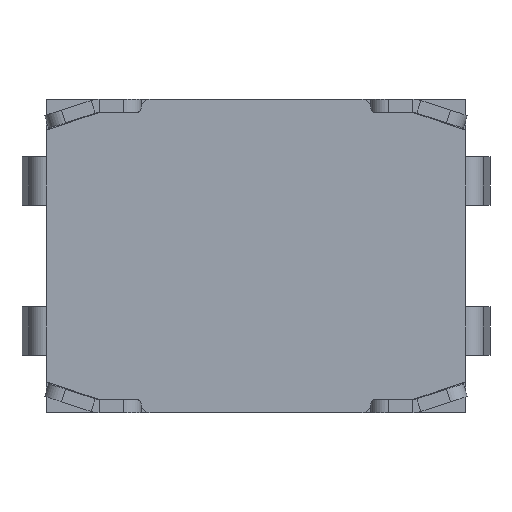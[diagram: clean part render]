
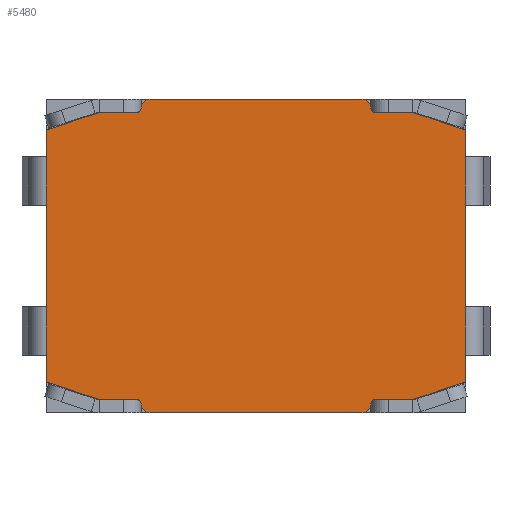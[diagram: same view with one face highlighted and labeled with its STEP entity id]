
A CAD part, front view. The second image highlights one B-rep face of the part: STEP entity #5480.
In plain terms, the highlighted planar face has unit normal (0, -1, 0).
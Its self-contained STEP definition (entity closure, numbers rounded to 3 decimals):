
#3567=CARTESIAN_POINT('',(1.2,-1.6,-1.675));
#3568=DIRECTION('',(0.,-1.,0.));
#3569=DIRECTION('',(0.,0.,-1.));
#3570=AXIS2_PLACEMENT_3D('',#3567,#3568,#3569);
#3575=CARTESIAN_POINT('',(-1.2,-1.6,-1.675));
#3576=DIRECTION('',(0.,-1.,0.));
#3577=DIRECTION('',(-1.,0.,0.));
#3578=AXIS2_PLACEMENT_3D('',#3575,#3576,#3577);
#3583=DIRECTION('',(-1.,0.,0.));
#3584=VECTOR('',#3583,0.425);
#3585=CARTESIAN_POINT('',(-1.35,-1.6,-1.625));
#3586=LINE('',#3585,#3584);
#3590=DIRECTION('',(0.949,0.,-0.316));
#3591=VECTOR('',#3590,0.632);
#3592=CARTESIAN_POINT('',(-2.375,-1.6,-1.425));
#3593=LINE('',#3592,#3591);
#3597=DIRECTION('',(0.,0.,1.));
#3598=VECTOR('',#3597,0.3);
#3599=CARTESIAN_POINT('',(-2.375,-1.6,-1.425));
#3600=LINE('',#3599,#3598);
#3604=DIRECTION('',(0.,0.,1.));
#3605=VECTOR('',#3604,0.55);
#3606=CARTESIAN_POINT('',(-2.375,-1.6,-1.125));
#3607=LINE('',#3606,#3605);
#3611=DIRECTION('',(0.,0.,1.));
#3612=VECTOR('',#3611,1.15);
#3613=CARTESIAN_POINT('',(-2.375,-1.6,-0.575));
#3614=LINE('',#3613,#3612);
#3618=DIRECTION('',(0.,0.,1.));
#3619=VECTOR('',#3618,0.55);
#3620=CARTESIAN_POINT('',(-2.375,-1.6,0.575));
#3621=LINE('',#3620,#3619);
#3625=DIRECTION('',(0.,0.,1.));
#3626=VECTOR('',#3625,0.3);
#3627=CARTESIAN_POINT('',(-2.375,-1.6,1.125));
#3628=LINE('',#3627,#3626);
#3632=DIRECTION('',(-0.949,0.,-0.316));
#3633=VECTOR('',#3632,0.632);
#3634=CARTESIAN_POINT('',(-1.775,-1.6,1.625));
#3635=LINE('',#3634,#3633);
#3639=DIRECTION('',(1.,0.,0.));
#3640=VECTOR('',#3639,0.425);
#3641=CARTESIAN_POINT('',(-1.775,-1.6,1.625));
#3642=LINE('',#3641,#3640);
#3646=CARTESIAN_POINT('',(-1.2,-1.6,1.675));
#3647=DIRECTION('',(0.,-1.,0.));
#3648=DIRECTION('',(0.,0.,1.));
#3649=AXIS2_PLACEMENT_3D('',#3646,#3647,#3648);
#3654=CARTESIAN_POINT('',(1.2,-1.6,1.675));
#3655=DIRECTION('',(0.,-1.,0.));
#3656=DIRECTION('',(1.,0.,0.));
#3657=AXIS2_PLACEMENT_3D('',#3654,#3655,#3656);
#3662=DIRECTION('',(1.,0.,0.));
#3663=VECTOR('',#3662,0.425);
#3664=CARTESIAN_POINT('',(1.35,-1.6,1.625));
#3665=LINE('',#3664,#3663);
#3669=DIRECTION('',(-0.949,0.,0.316));
#3670=VECTOR('',#3669,0.632);
#3671=CARTESIAN_POINT('',(2.375,-1.6,1.425));
#3672=LINE('',#3671,#3670);
#3676=DIRECTION('',(0.,0.,-1.));
#3677=VECTOR('',#3676,0.3);
#3678=CARTESIAN_POINT('',(2.375,-1.6,1.425));
#3679=LINE('',#3678,#3677);
#3683=DIRECTION('',(0.,0.,1.));
#3684=VECTOR('',#3683,0.55);
#3685=CARTESIAN_POINT('',(2.375,-1.6,0.575));
#3686=LINE('',#3685,#3684);
#3690=DIRECTION('',(0.,0.,-1.));
#3691=VECTOR('',#3690,1.15);
#3692=CARTESIAN_POINT('',(2.375,-1.6,0.575));
#3693=LINE('',#3692,#3691);
#3697=DIRECTION('',(0.,0.,1.));
#3698=VECTOR('',#3697,0.55);
#3699=CARTESIAN_POINT('',(2.375,-1.6,-1.125));
#3700=LINE('',#3699,#3698);
#3704=DIRECTION('',(0.,0.,-1.));
#3705=VECTOR('',#3704,0.3);
#3706=CARTESIAN_POINT('',(2.375,-1.6,-1.125));
#3707=LINE('',#3706,#3705);
#3711=DIRECTION('',(0.949,0.,0.316));
#3712=VECTOR('',#3711,0.632);
#3713=CARTESIAN_POINT('',(1.775,-1.6,-1.625));
#3714=LINE('',#3713,#3712);
#3718=DIRECTION('',(-1.,0.,0.));
#3719=VECTOR('',#3718,0.425);
#3720=CARTESIAN_POINT('',(1.775,-1.6,-1.625));
#3721=LINE('',#3720,#3719);
#3732=CARTESIAN_POINT('',(1.35,-1.6,-1.675));
#3733=DIRECTION('',(0.,1.,0.));
#3734=DIRECTION('',(-1.,0.,0.));
#3735=AXIS2_PLACEMENT_3D('',#3732,#3733,#3734);
#4442=CARTESIAN_POINT('',(-1.35,-1.6,1.675));
#4443=DIRECTION('',(0.,1.,0.));
#4444=DIRECTION('',(1.,0.,0.));
#4445=AXIS2_PLACEMENT_3D('',#4442,#4443,#4444);
#4496=CARTESIAN_POINT('',(1.35,-1.6,1.675));
#4497=DIRECTION('',(0.,1.,0.));
#4498=DIRECTION('',(0.,0.,-1.));
#4499=AXIS2_PLACEMENT_3D('',#4496,#4497,#4498);
#4511=DIRECTION('',(-1.,0.,0.));
#4512=VECTOR('',#4511,2.4);
#4513=CARTESIAN_POINT('',(1.2,-1.6,1.775));
#4514=LINE('',#4513,#4512);
#5074=CARTESIAN_POINT('',(-1.35,-1.6,-1.675));
#5075=DIRECTION('',(0.,1.,0.));
#5076=DIRECTION('',(0.,0.,1.));
#5077=AXIS2_PLACEMENT_3D('',#5074,#5075,#5076);
#5126=DIRECTION('',(-1.,0.,0.));
#5127=VECTOR('',#5126,2.4);
#5128=CARTESIAN_POINT('',(1.2,-1.6,-1.775));
#5129=LINE('',#5128,#5127);
#5233=CARTESIAN_POINT('',(-2.375,-1.6,0.575));
#5234=CARTESIAN_POINT('',(-2.375,-1.6,1.125));
#5235=VERTEX_POINT('',#5233);
#5236=VERTEX_POINT('',#5234);
#5249=CARTESIAN_POINT('',(2.375,-1.6,0.575));
#5250=CARTESIAN_POINT('',(2.375,-1.6,1.125));
#5251=VERTEX_POINT('',#5249);
#5252=VERTEX_POINT('',#5250);
#5281=CARTESIAN_POINT('',(-2.375,-1.6,-0.575));
#5282=VERTEX_POINT('',#5281);
#5285=CARTESIAN_POINT('',(-2.375,-1.6,-1.125));
#5286=VERTEX_POINT('',#5285);
#5297=CARTESIAN_POINT('',(2.375,-1.6,-0.575));
#5298=VERTEX_POINT('',#5297);
#5301=CARTESIAN_POINT('',(2.375,-1.6,-1.125));
#5302=VERTEX_POINT('',#5301);
#5305=CARTESIAN_POINT('',(-1.775,-1.6,1.625));
#5306=CARTESIAN_POINT('',(-2.375,-1.6,1.425));
#5307=VERTEX_POINT('',#5305);
#5308=VERTEX_POINT('',#5306);
#5313=CARTESIAN_POINT('',(2.375,-1.6,1.425));
#5314=CARTESIAN_POINT('',(1.775,-1.6,1.625));
#5315=VERTEX_POINT('',#5313);
#5316=VERTEX_POINT('',#5314);
#5321=CARTESIAN_POINT('',(-2.375,-1.6,-1.425));
#5322=CARTESIAN_POINT('',(-1.775,-1.6,-1.625));
#5323=VERTEX_POINT('',#5321);
#5324=VERTEX_POINT('',#5322);
#5329=CARTESIAN_POINT('',(1.775,-1.6,-1.625));
#5330=CARTESIAN_POINT('',(2.375,-1.6,-1.425));
#5331=VERTEX_POINT('',#5329);
#5332=VERTEX_POINT('',#5330);
#5338=CARTESIAN_POINT('',(-1.35,-1.6,1.625));
#5340=VERTEX_POINT('',#5338);
#5341=CARTESIAN_POINT('',(1.35,-1.6,1.625));
#5343=VERTEX_POINT('',#5341);
#5346=CARTESIAN_POINT('',(1.35,-1.6,-1.625));
#5348=VERTEX_POINT('',#5346);
#5349=CARTESIAN_POINT('',(-1.35,-1.6,-1.625));
#5351=VERTEX_POINT('',#5349);
#5353=CARTESIAN_POINT('',(1.2,-1.6,-1.775));
#5354=CARTESIAN_POINT('',(1.3,-1.6,-1.675));
#5355=VERTEX_POINT('',#5353);
#5356=VERTEX_POINT('',#5354);
#5365=CARTESIAN_POINT('',(-1.3,-1.6,-1.675));
#5366=VERTEX_POINT('',#5365);
#5367=CARTESIAN_POINT('',(-1.2,-1.6,-1.775));
#5368=VERTEX_POINT('',#5367);
#5373=CARTESIAN_POINT('',(1.3,-1.6,1.675));
#5374=VERTEX_POINT('',#5373);
#5375=CARTESIAN_POINT('',(1.2,-1.6,1.775));
#5376=VERTEX_POINT('',#5375);
#5377=CARTESIAN_POINT('',(-1.2,-1.6,1.775));
#5378=CARTESIAN_POINT('',(-1.3,-1.6,1.675));
#5379=VERTEX_POINT('',#5377);
#5380=VERTEX_POINT('',#5378);
#5417=CARTESIAN_POINT('',(0.,-1.6,0.));
#5418=DIRECTION('',(0.,1.,0.));
#5419=DIRECTION('',(1.,0.,0.));
#5420=AXIS2_PLACEMENT_3D('',#5417,#5418,#5419);
#5421=PLANE('',#5420);
#5423=ORIENTED_EDGE('',*,*,#5422,.F.);
#5425=ORIENTED_EDGE('',*,*,#5424,.T.);
#5427=ORIENTED_EDGE('',*,*,#5426,.F.);
#5429=ORIENTED_EDGE('',*,*,#5428,.F.);
#5431=ORIENTED_EDGE('',*,*,#5430,.T.);
#5433=ORIENTED_EDGE('',*,*,#5432,.F.);
#5435=ORIENTED_EDGE('',*,*,#5434,.T.);
#5437=ORIENTED_EDGE('',*,*,#5436,.T.);
#5439=ORIENTED_EDGE('',*,*,#5438,.T.);
#5441=ORIENTED_EDGE('',*,*,#5440,.T.);
#5443=ORIENTED_EDGE('',*,*,#5442,.T.);
#5445=ORIENTED_EDGE('',*,*,#5444,.F.);
#5447=ORIENTED_EDGE('',*,*,#5446,.T.);
#5449=ORIENTED_EDGE('',*,*,#5448,.F.);
#5451=ORIENTED_EDGE('',*,*,#5450,.F.);
#5453=ORIENTED_EDGE('',*,*,#5452,.F.);
#5455=ORIENTED_EDGE('',*,*,#5454,.F.);
#5457=ORIENTED_EDGE('',*,*,#5456,.F.);
#5459=ORIENTED_EDGE('',*,*,#5458,.T.);
#5461=ORIENTED_EDGE('',*,*,#5460,.F.);
#5463=ORIENTED_EDGE('',*,*,#5462,.T.);
#5465=ORIENTED_EDGE('',*,*,#5464,.F.);
#5467=ORIENTED_EDGE('',*,*,#5466,.T.);
#5469=ORIENTED_EDGE('',*,*,#5468,.F.);
#5471=ORIENTED_EDGE('',*,*,#5470,.T.);
#5473=ORIENTED_EDGE('',*,*,#5472,.F.);
#5475=ORIENTED_EDGE('',*,*,#5474,.T.);
#5477=ORIENTED_EDGE('',*,*,#5476,.F.);
#5478=EDGE_LOOP('',(#5423,#5425,#5427,#5429,#5431,#5433,#5435,#5437,#5439,#5441,
#5443,#5445,#5447,#5449,#5451,#5453,#5455,#5457,#5459,#5461,#5463,#5465,#5467,
#5469,#5471,#5473,#5475,#5477));
#5479=FACE_OUTER_BOUND('',#5478,.F.);
#3571=CIRCLE('',#3570,0.1);
#3579=CIRCLE('',#3578,0.1);
#3650=CIRCLE('',#3649,0.1);
#3658=CIRCLE('',#3657,0.1);
#3736=CIRCLE('',#3735,0.05);
#4446=CIRCLE('',#4445,0.05);
#4500=CIRCLE('',#4499,0.05);
#5078=CIRCLE('',#5077,0.05);
#5422=EDGE_CURVE('',#5355,#5356,#3571,.T.);
#5424=EDGE_CURVE('',#5355,#5368,#5129,.T.);
#5426=EDGE_CURVE('',#5366,#5368,#3579,.T.);
#5428=EDGE_CURVE('',#5351,#5366,#5078,.T.);
#5430=EDGE_CURVE('',#5351,#5324,#3586,.T.);
#5432=EDGE_CURVE('',#5323,#5324,#3593,.T.);
#5434=EDGE_CURVE('',#5323,#5286,#3600,.T.);
#5436=EDGE_CURVE('',#5286,#5282,#3607,.T.);
#5438=EDGE_CURVE('',#5282,#5235,#3614,.T.);
#5440=EDGE_CURVE('',#5235,#5236,#3621,.T.);
#5442=EDGE_CURVE('',#5236,#5308,#3628,.T.);
#5444=EDGE_CURVE('',#5307,#5308,#3635,.T.);
#5446=EDGE_CURVE('',#5307,#5340,#3642,.T.);
#5448=EDGE_CURVE('',#5380,#5340,#4446,.T.);
#5450=EDGE_CURVE('',#5379,#5380,#3650,.T.);
#5452=EDGE_CURVE('',#5376,#5379,#4514,.T.);
#5454=EDGE_CURVE('',#5374,#5376,#3658,.T.);
#5456=EDGE_CURVE('',#5343,#5374,#4500,.T.);
#5458=EDGE_CURVE('',#5343,#5316,#3665,.T.);
#5460=EDGE_CURVE('',#5315,#5316,#3672,.T.);
#5462=EDGE_CURVE('',#5315,#5252,#3679,.T.);
#5464=EDGE_CURVE('',#5251,#5252,#3686,.T.);
#5466=EDGE_CURVE('',#5251,#5298,#3693,.T.);
#5468=EDGE_CURVE('',#5302,#5298,#3700,.T.);
#5470=EDGE_CURVE('',#5302,#5332,#3707,.T.);
#5472=EDGE_CURVE('',#5331,#5332,#3714,.T.);
#5474=EDGE_CURVE('',#5331,#5348,#3721,.T.);
#5476=EDGE_CURVE('',#5356,#5348,#3736,.T.);
#5480=ADVANCED_FACE('',(#5479),#5421,.F.);
